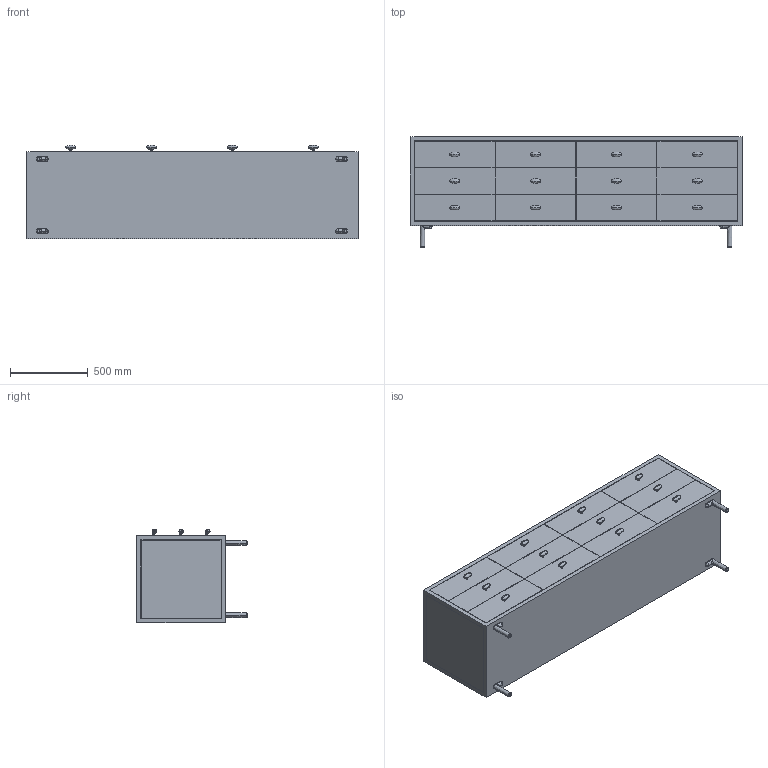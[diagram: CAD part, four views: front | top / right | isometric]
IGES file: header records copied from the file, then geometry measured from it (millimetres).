
Start section: SolidWorks IGES file using analytic representation for surfaces
Global section: file name: C:\Users\David.BDLE\Desktop\053S\053S.IGS; native system: SolidWorks 2016; preprocessor: SolidWorks 2016; author: David; date: 191118.152230; units: millimetre
Bounding box: 2135 x 710 x 600 mm (x, y, z)
Surface area: 20676477.5 mm2 (no closed solid volume)
Topology: 0 solids, 0 shells, 687 faces, 5760 edges, 5600 vertices
Faces by surface type: bspline 551, revolution 136
